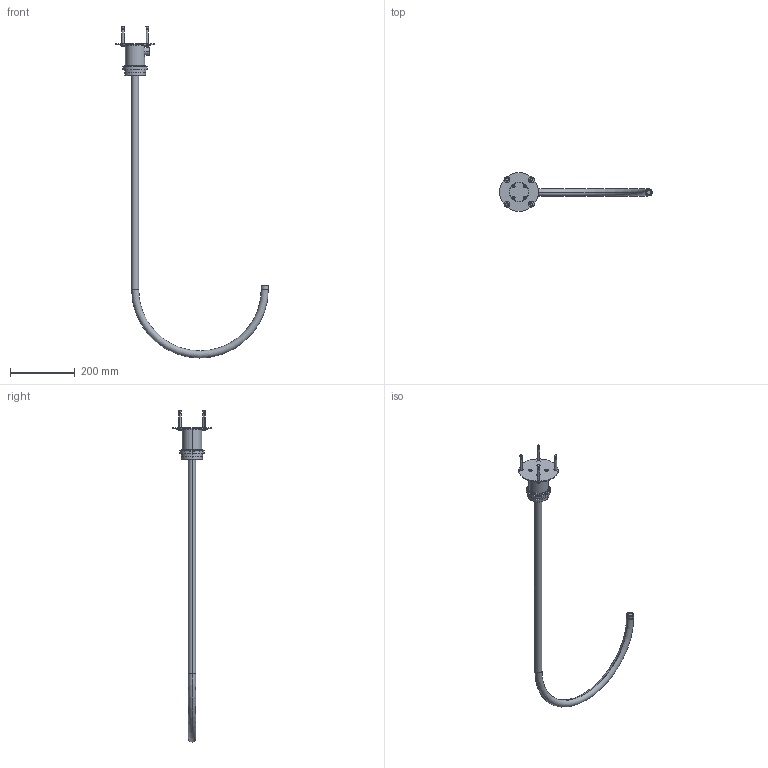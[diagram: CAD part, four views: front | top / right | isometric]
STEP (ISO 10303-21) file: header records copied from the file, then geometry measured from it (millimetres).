
FILE_DESCRIPTION((''),'2;1');
FILE_NAME('ASM0007_ASM','2020-04-04T',('Administrator'),(''),'PRO/ENGINEER BY PARAMETRIC TECHNOLOGY CORPORATION, 2010370','PRO/ENGINEER BY PARAMETRIC TECHNOLOGY CORPORATION, 2010370','');
FILE_SCHEMA(('CONFIG_CONTROL_DESIGN'));
Length unit declared in the file: millimetre
Products named in the file (27): PRT0017_AF0; PRT0020_AF0; PRT0032_AF0; 1-; PRT0002_AF1; PRT0001_AF0; PRT0003_AF0; PRT0004_AF0; 21X2_AF0; 21X2_AF1; 21X2_AF2; M18-5X1-; ASM0001_AF0_ASM; PRT0035; PRT0035_AF0; PRT0035_AF1; PRT0036_AF0; PRT0005_AF0; PRT0006_AF0; 26X2_AF0; 72X2-5_AF0; ASM0002_AF0_ASM; PRT0007_AF0; 21X2_AF3; 21X2_AF4; ASM0003_AF0_ASM; ASM0007_ASM
Assembly tree (34 placements, depth 3):
  ASM0007_ASM
    PRT0017_AF0
    PRT0020_AF0
    PRT0032_AF0
    1-  x4
    ASM0001_AF0_ASM
      PRT0002_AF1
      PRT0001_AF0
      PRT0003_AF0
      PRT0004_AF0
      21X2_AF0
      21X2_AF1
      21X2_AF2
      M18-5X1-
    PRT0035  x6
    PRT0035_AF0
    PRT0035_AF1
    PRT0036_AF0
    PRT0005_AF0
    ASM0002_AF0_ASM
      PRT0006_AF0
      26X2_AF0
      72X2-5_AF0
    ASM0003_AF0_ASM
      PRT0007_AF0
      21X2_AF3
      21X2_AF4
Bounding box: 471 x 120 x 1024.25 mm (x, y, z)
Volume: 549790.2 mm3; surface area: 278515.8 mm2
Topology: 31 solids, 43 shells, 1101 faces, 2592 edges, 1606 vertices
Faces by surface type: cylinder 496, plane 275, cone 164, bspline 88, torus 76, sphere 2
Entity records: 27278 total; most frequent: CARTESIAN_POINT 10305, DIRECTION 3726, ORIENTED_EDGE 3190, EDGE_CURVE 1619, AXIS2_PLACEMENT_3D 1540, VERTEX_POINT 1010, EDGE_LOOP 837, CIRCLE 779
